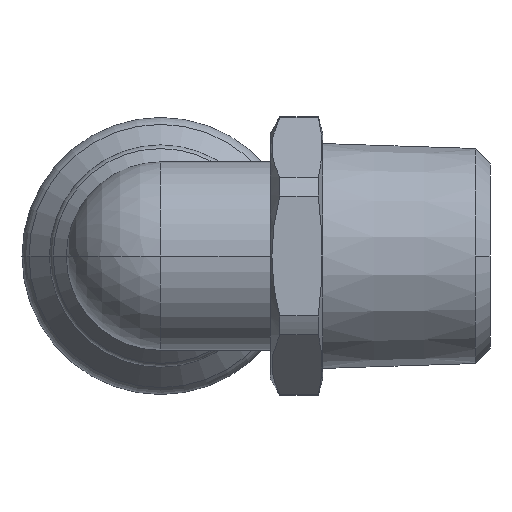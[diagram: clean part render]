
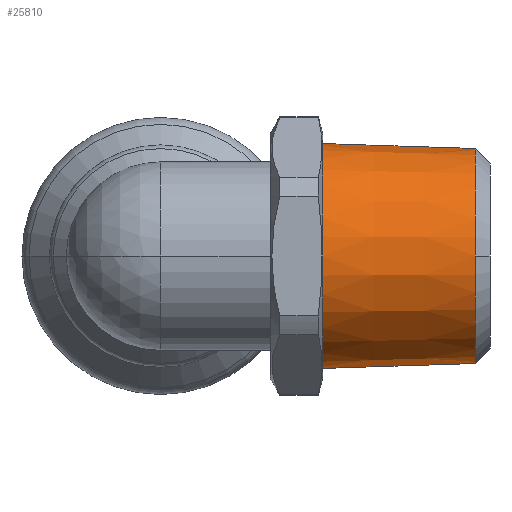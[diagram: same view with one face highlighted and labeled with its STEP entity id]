
A CAD part, front view. The second image highlights one B-rep face of the part: STEP entity #25810.
In plain terms, the highlighted conical face has half-angle 1.853 degrees and reference radius 10.75 mm.
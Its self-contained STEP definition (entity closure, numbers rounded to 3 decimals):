
#25210=CARTESIAN_POINT('',(-187.476,21.621,
0.));
#25220=DIRECTION('',(-1.,0.,0.));
#25230=DIRECTION('',(0.,-0.866,0.5));
#25240=AXIS2_PLACEMENT_3D('',#25210,#25220,#25230);
#25250=CIRCLE('',#25240,10.75);
#25260=CARTESIAN_POINT('',(-187.476,21.621,-10.75));
#25270=VERTEX_POINT('',#25260);
#25280=CARTESIAN_POINT('',(-187.476,21.621,10.75));
#25290=VERTEX_POINT('',#25280);
#25300=EDGE_CURVE('',#25270,#25290,#25250,.T.);
#25460=CARTESIAN_POINT('',(-187.476,21.621,0.));
#25470=DIRECTION('',(-1.,0.,0.));
#25480=DIRECTION('',(0.,0.,1.));
#25490=AXIS2_PLACEMENT_3D('',#25460,#25470,#25480);
#25500=CONICAL_SURFACE('',#25490,10.75,0.032);
#25510=CARTESIAN_POINT('',(-172.876,21.621,0.));
#25520=DIRECTION('',(-1.,0.,0.));
#25530=DIRECTION('',(0.,0.,-1.));
#25540=AXIS2_PLACEMENT_3D('',#25510,#25520,#25530);
#25550=CIRCLE('',#25540,10.278);
#25560=CARTESIAN_POINT('',(-172.876,21.621,
-10.278));
#25570=VERTEX_POINT('',#25560);
#25580=CARTESIAN_POINT('',(-172.876,11.343,0.));
#25590=VERTEX_POINT('',#25580);
#25600=EDGE_CURVE('',#25570,#25590,#25550,.T.);
#25610=ORIENTED_EDGE('',*,*,#25600,.T.);
#25620=CARTESIAN_POINT('',(-187.476,21.621,-10.75));
#25630=DIRECTION('',(-0.999,0.,
-0.032));
#25640=VECTOR('',#25630,1.);
#25650=LINE('',#25620,#25640);
#25660=EDGE_CURVE('',#25570,#25270,#25650,.T.);
#25670=ORIENTED_EDGE('',*,*,#25660,.F.);
#25680=ORIENTED_EDGE('',*,*,#25300,.F.);
#25690=CARTESIAN_POINT('',(-187.476,21.621,10.75));
#25700=DIRECTION('',(-0.999,0.,0.032));
#25710=VECTOR('',#25700,1.);
#25720=LINE('',#25690,#25710);
#25730=CARTESIAN_POINT('',(-172.876,21.621,
10.278));
#25740=VERTEX_POINT('',#25730);
#25750=EDGE_CURVE('',#25740,#25290,#25720,.T.);
#25760=ORIENTED_EDGE('',*,*,#25750,.T.);
#25770=EDGE_CURVE('',#25590,#25740,#25550,.T.);
#25780=ORIENTED_EDGE('',*,*,#25770,.T.);
#25790=EDGE_LOOP('',(#25780,#25760,#25680,#25670,#25610));
#25800=FACE_OUTER_BOUND('',#25790,.T.);
#25810=ADVANCED_FACE('',(#25800),#25500,.T.);
